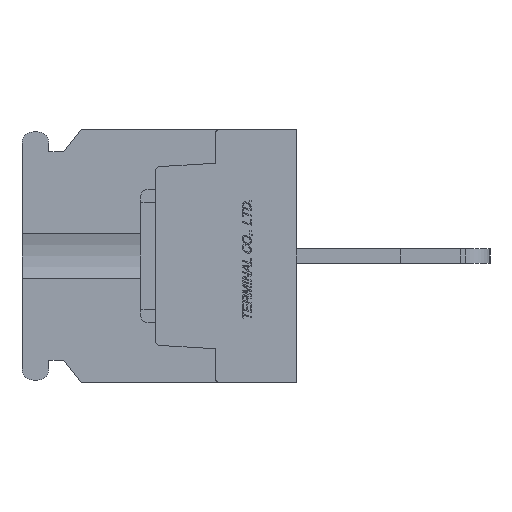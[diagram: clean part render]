
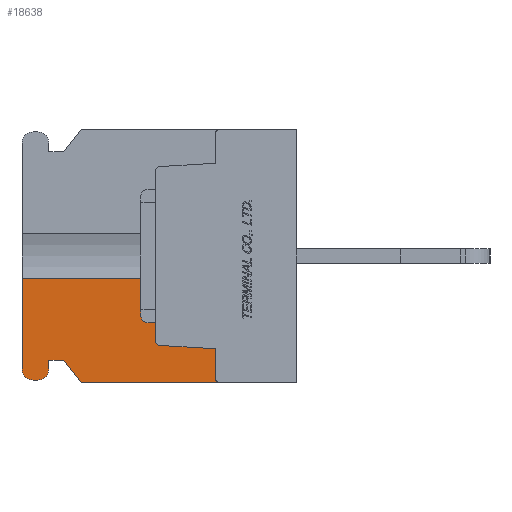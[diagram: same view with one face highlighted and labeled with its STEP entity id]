
A CAD part, left-side view. The second image highlights one B-rep face of the part: STEP entity #18638.
In plain terms, the highlighted planar face has unit normal (-1, 0, 0).
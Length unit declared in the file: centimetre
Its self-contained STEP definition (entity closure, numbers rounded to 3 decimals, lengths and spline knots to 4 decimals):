
#913=VECTOR('',#20782,1.);
#914=VECTOR('',#20783,1.);
#915=VECTOR('',#20784,1.);
#916=VECTOR('',#20787,1.);
#917=VECTOR('',#20790,1.);
#918=VECTOR('',#20791,1.);
#919=VECTOR('',#20792,1.);
#920=VECTOR('',#20793,1.);
#921=VECTOR('',#20796,1.);
#922=VECTOR('',#20797,1.);
#3008=LINE('',#25224,#913);
#3009=LINE('',#25227,#914);
#3010=LINE('',#25229,#915);
#3011=LINE('',#25233,#916);
#3012=LINE('',#25237,#917);
#3013=LINE('',#25239,#918);
#3014=LINE('',#25241,#919);
#3015=LINE('',#25243,#920);
#3016=LINE('',#25247,#921);
#3017=LINE('',#25249,#922);
#5118=VERTEX_POINT('',#25225);
#5119=VERTEX_POINT('',#25226);
#5120=VERTEX_POINT('',#25228);
#5121=VERTEX_POINT('',#25230);
#5122=VERTEX_POINT('',#25232);
#5123=VERTEX_POINT('',#25234);
#5124=VERTEX_POINT('',#25236);
#5125=VERTEX_POINT('',#25238);
#5126=VERTEX_POINT('',#25240);
#5127=VERTEX_POINT('',#25242);
#5128=VERTEX_POINT('',#25244);
#5129=VERTEX_POINT('',#25246);
#5130=VERTEX_POINT('',#25248);
#5131=VERTEX_POINT('',#25250);
#6967=CIRCLE('',#31957,0.075);
#6968=CIRCLE('',#31958,0.075);
#6969=CIRCLE('',#31959,0.03);
#6970=CIRCLE('',#31960,0.03);
#7605=EDGE_CURVE('',#5118,#5119,#3008,.T.);
#7606=EDGE_CURVE('',#5118,#5120,#3009,.T.);
#7607=EDGE_CURVE('',#5121,#5120,#3010,.T.);
#7608=EDGE_CURVE('',#5122,#5121,#6967,.T.);
#7609=EDGE_CURVE('',#5123,#5122,#3011,.T.);
#7610=EDGE_CURVE('',#5124,#5123,#6968,.T.);
#7611=EDGE_CURVE('',#5125,#5124,#3012,.T.);
#7612=EDGE_CURVE('',#5126,#5125,#3013,.T.);
#7613=EDGE_CURVE('',#5127,#5126,#3014,.T.);
#7614=EDGE_CURVE('',#5128,#5127,#3015,.T.);
#7615=EDGE_CURVE('',#5129,#5128,#6969,.T.);
#7616=EDGE_CURVE('',#5130,#5129,#3016,.T.);
#7617=EDGE_CURVE('',#5131,#5130,#3017,.T.);
#7618=EDGE_CURVE('',#5119,#5131,#6970,.T.);
#10728=ORIENTED_EDGE('',*,*,#7605,.F.);
#10729=ORIENTED_EDGE('',*,*,#7606,.T.);
#10730=ORIENTED_EDGE('',*,*,#7607,.F.);
#10731=ORIENTED_EDGE('',*,*,#7608,.F.);
#10732=ORIENTED_EDGE('',*,*,#7609,.F.);
#10733=ORIENTED_EDGE('',*,*,#7610,.F.);
#10734=ORIENTED_EDGE('',*,*,#7611,.F.);
#10735=ORIENTED_EDGE('',*,*,#7612,.F.);
#10736=ORIENTED_EDGE('',*,*,#7613,.F.);
#10737=ORIENTED_EDGE('',*,*,#7614,.F.);
#10738=ORIENTED_EDGE('',*,*,#7615,.F.);
#10739=ORIENTED_EDGE('',*,*,#7616,.F.);
#10740=ORIENTED_EDGE('',*,*,#7617,.F.);
#10741=ORIENTED_EDGE('',*,*,#7618,.F.);
#16246=EDGE_LOOP('',(#10728,#10729,#10730,#10731,#10732,#10733,#10734,#10735,
#10736,#10737,#10738,#10739,#10740,#10741));
#17446=FACE_BOUND('',#16246,.T.);
#18638=ADVANCED_FACE('',(#17446),#19688,.F.);
#19688=PLANE('',#31956);
#20781=DIRECTION('',(1.,0.,0.));
#20782=DIRECTION('',(0.,0.,-1.));
#20783=DIRECTION('',(0.,1.,0.));
#20784=DIRECTION('',(0.,0.,1.));
#20785=DIRECTION('',(1.,0.,0.));
#20786=DIRECTION('',(0.,0.,-0.075));
#20787=DIRECTION('',(0.,1.,0.));
#20788=DIRECTION('',(1.,0.,0.));
#20789=DIRECTION('',(0.,0.,-0.075));
#20790=DIRECTION('',(0.,0.,-1.));
#20791=DIRECTION('',(0.,1.,0.));
#20792=DIRECTION('',(0.,0.625,0.781));
#20793=DIRECTION('',(0.,1.,0.));
#20794=DIRECTION('',(-1.,0.,0.));
#20795=DIRECTION('',(0.,0.,0.03));
#20796=DIRECTION('',(0.,0.,-1.));
#20797=DIRECTION('',(0.,-0.998,-0.061));
#20798=DIRECTION('',(-1.,0.,0.));
#20799=DIRECTION('',(0.,0.,0.03));
#25223=CARTESIAN_POINT('',(-1.1,0.9454,0.));
#25224=CARTESIAN_POINT('',(-1.1,0.95,0.5718));
#25225=CARTESIAN_POINT('',(-1.1,0.95,-0.1521));
#25226=CARTESIAN_POINT('',(-1.1,0.95,-0.5718));
#25227=CARTESIAN_POINT('',(-1.1,1.4,-0.1521));
#25228=CARTESIAN_POINT('',(-1.1,1.85,-0.1521));
#25229=CARTESIAN_POINT('',(-1.1,1.85,-0.76));
#25230=CARTESIAN_POINT('',(-1.1,1.85,-0.76));
#25231=CARTESIAN_POINT('',(-1.1,1.775,-0.76));
#25232=CARTESIAN_POINT('',(-1.1,1.775,-0.835));
#25233=CARTESIAN_POINT('',(-1.1,1.745,-0.835));
#25234=CARTESIAN_POINT('',(-1.1,1.745,-0.835));
#25235=CARTESIAN_POINT('',(-1.1,1.745,-0.76));
#25236=CARTESIAN_POINT('',(-1.1,1.67,-0.76));
#25237=CARTESIAN_POINT('',(-1.1,1.67,-0.7));
#25238=CARTESIAN_POINT('',(-1.1,1.67,-0.7));
#25239=CARTESIAN_POINT('',(-1.1,1.57,-0.7));
#25240=CARTESIAN_POINT('',(-1.1,1.57,-0.7));
#25241=CARTESIAN_POINT('',(-1.1,1.45,-0.85));
#25242=CARTESIAN_POINT('',(-1.1,1.45,-0.85));
#25243=CARTESIAN_POINT('',(-1.1,0.,-0.85));
#25244=CARTESIAN_POINT('',(-1.1,0.52,-0.85));
#25245=CARTESIAN_POINT('',(-1.1,0.52,-0.82));
#25246=CARTESIAN_POINT('',(-1.1,0.55,-0.82));
#25247=CARTESIAN_POINT('',(-1.1,0.55,-0.6245));
#25248=CARTESIAN_POINT('',(-1.1,0.55,-0.6245));
#25249=CARTESIAN_POINT('',(-1.1,0.9218,-0.6017));
#25250=CARTESIAN_POINT('',(-1.1,0.9218,-0.6017));
#25251=CARTESIAN_POINT('',(-1.1,0.92,-0.5718));
#31956=AXIS2_PLACEMENT_3D('',#25223,#20781,$);
#31957=AXIS2_PLACEMENT_3D('',#25231,#20785,#20786);
#31958=AXIS2_PLACEMENT_3D('',#25235,#20788,#20789);
#31959=AXIS2_PLACEMENT_3D('',#25245,#20794,#20795);
#31960=AXIS2_PLACEMENT_3D('',#25251,#20798,#20799);
